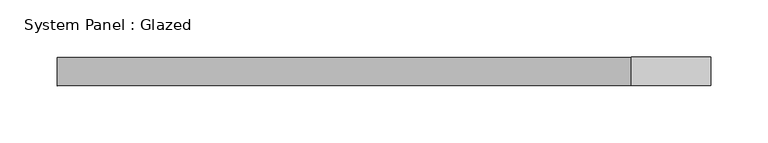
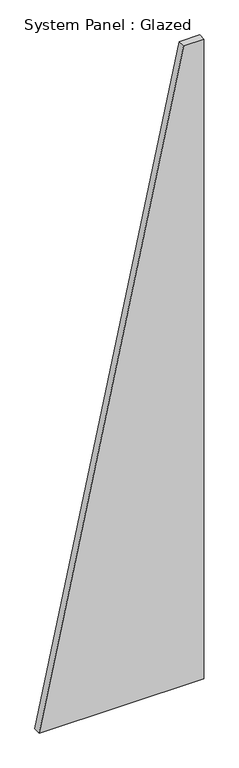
"""IFC4 building model written with IfcOpenShell, lengths in millimetres: plate geometry, System Panel : Glazed."""

from ifc_helpers import new_model, si_unit, frame, origin, place, context, project, spatial, polyline, outline, extrude, source, transform, mapped, element, save


def system_panel_glazed_817d0208(model_context):
    return source(origin(), model_context, "Body", "SweptSolid", [
        extrude(outline(polyline([(0.0, -286.1457879), (0.0, 286.1457879), (2350.0, 286.1457879), (2350.0, 216.3802813), (0.0, -286.1457879)])), frame((0.0, -49.5, 0.0), z_axis=(0.0, 1.0, 0.0), x_axis=(0.0, 0.0, 1.0)), (0.0, 0.0, 1.0), 25.0),
    ])


if __name__ == "__main__":
    model = new_model("IFC4")
    model_context = context("Model", 3, world=origin())
    ifc_project = project(units=[si_unit("LENGTHUNIT", "METRE", prefix="MILLI")], contexts=[model_context])
    site = spatial("IfcSite", under=ifc_project)
    building = spatial("IfcBuilding", under=site)
    placement = place(None, origin())
    system_panel_glazed_shape = system_panel_glazed_817d0208(model_context)
    element("IfcPlate", 1, ObjectType="System Panel : Glazed", at=placement, inside=building, context=model_context, shape_type="MappedRepresentation", body=[
        mapped(system_panel_glazed_shape, transform((0.0, 0.0, 0.0), x_axis=(1.0, 0.0, 0.0), y_axis=(0.0, 1.0, 0.0), z_axis=(0.0, 0.0, 1.0))),
    ])
    save(model, "model.ifc")
